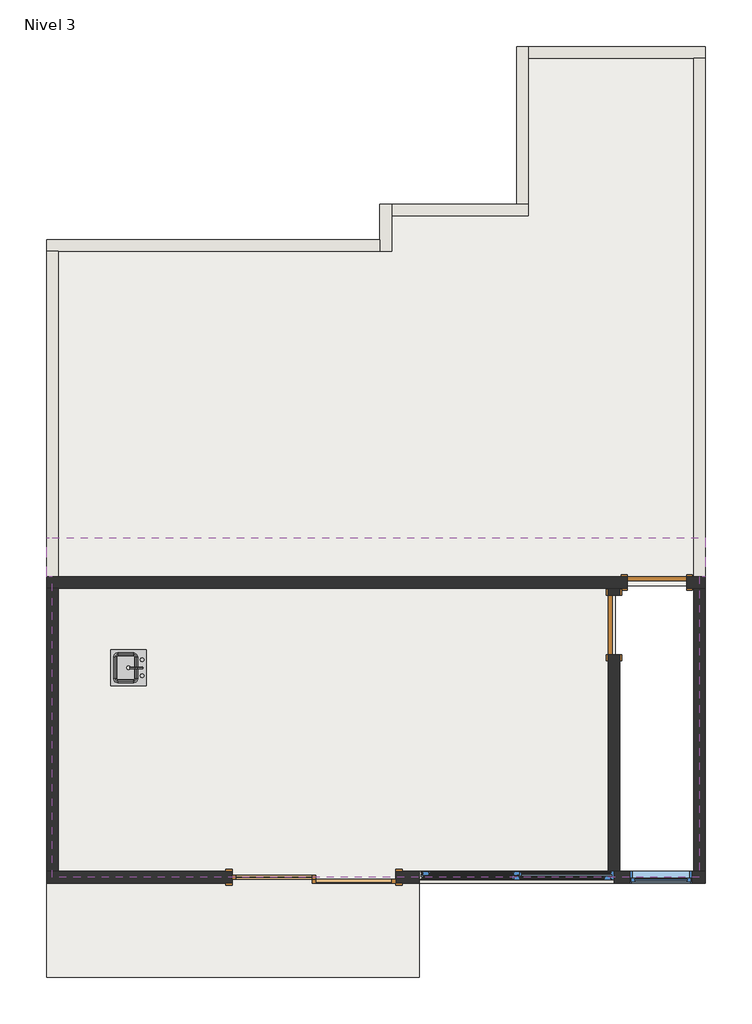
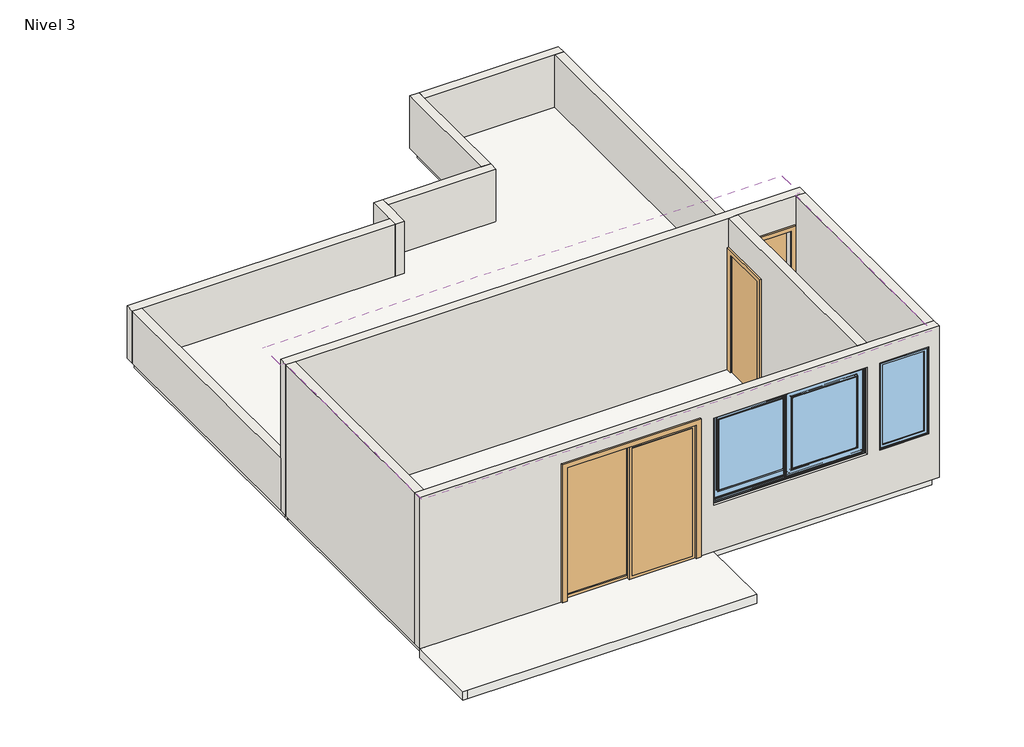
# One storey, incomplete: 12 walls, 3 doors, 2 slabs, 2 windows, 1 covering, 1 flow terminal.
"""IFC4 building model written with IfcOpenShell, lengths in millimetres."""

from ifc_helpers import new_model, si_unit, frame, origin, place, context, project, spatial, polyline, outline, extrude, faceted_brep, transform, mapped, element, save
from components import m_puerta_corredera_dos_hojas_2_1_ancho_d19f291b, m_simple_a_ras_0762_x_2032mm_3f592dcc, flow_terminal_871c2e40, window_2_5_x_1_5_7387efda, window_2_5_x_1_5_7a9b2e37, window_2_5_x_1_5_f0680f54, m_fijo_8_x_1_5_414f3f9b

model = new_model("IFC4")

# Units and contexts
model_context = context("Model", 3, world=origin())
ifc_project = project(units=[si_unit("LENGTHUNIT", "METRE", prefix="MILLI")], contexts=[model_context])

# Site, building, storey
site = spatial("IfcSite", under=ifc_project)
building = spatial("IfcBuilding", under=site)
storey = spatial("IfcBuildingStorey", under=building, Name="Nivel 3", Elevation=5400.0)

# Covering
placement = place(None, origin())
element("IfcCovering", 1, ObjectType="Simple", at=placement, inside=storey, context=model_context, shape_type="SweptSolid", body=[
    extrude(outline(polyline([(-9819.5352198, -654.7257228), (-9819.5352198, 3200.2742772), (-9894.5352198, 3200.2742772), (-9894.5352198, 3700.2742772), (-9819.5352198, 3700.2742772), (-1444.5352198, 3700.2742772), (-1444.5352198, 3200.2742772), (-1519.5352198, 3200.2742772), (-1519.5352198, -654.7257228), (-9819.5352198, -654.7257228)])), frame((0.0, 0.0, 7900.0), z_axis=(0.0, 0.0, 1.0), x_axis=(1.0, 0.0, 0.0)), (0.0, 0.0, 1.0), 57.0),
])

# Doors
m_puerta_corredera_dos_hojas_2_1_ancho_shape = m_puerta_corredera_dos_hojas_2_1_ancho_d19f291b(model_context)
element("IfcDoor", 2, ObjectType="M_Puerta-Corredera-Dos_hojas : 2.1 ANCHO", at=placement, inside=storey, context=model_context, shape_type="MappedRepresentation", body=[
    mapped(m_puerta_corredera_dos_hojas_2_1_ancho_shape, transform((-6464.5352198, -527.7257228, 5400.0), x_axis=(-1.0, 0.0, 0.0), y_axis=(0.0, -1.0, 0.0), z_axis=(0.0, 0.0, 1.0))),
])
m_simple_a_ras_0762_x_2032mm_shape = m_simple_a_ras_0762_x_2032mm_3f592dcc(model_context)
element("IfcDoor", 3, ObjectType="M_Simple-A ras : 0762 x 2032mm", at=placement, inside=storey, context=model_context, shape_type="MappedRepresentation", body=[
    mapped(m_simple_a_ras_0762_x_2032mm_shape, transform((-2067.0352198, 3125.2742772, 5400.0), x_axis=(1.0, 0.0, 0.0), y_axis=(0.0, 1.0, 0.0), z_axis=(0.0, 0.0, 1.0))),
])
element("IfcDoor", 4, ObjectType="M_Simple-A ras : 0762 x 2032mm", at=placement, inside=storey, context=model_context, shape_type="MappedRepresentation", body=[
    mapped(m_simple_a_ras_0762_x_2032mm_shape, transform((-2614.5352198, 2582.2742772, 5400.0), x_axis=(0.0, 1.0, 0.0), y_axis=(-1.0, 0.0, 0.0), z_axis=(0.0, 0.0, 1.0))),
])

# Flow terminal
flow_terminal_shape = flow_terminal_871c2e40(model_context)
element("IfcFlowTerminal", 5, ObjectType="Sink Kitchen-Island : 18\" x 18\"", at=placement, inside=storey, context=model_context, shape_type="MappedRepresentation", body=[
    mapped(flow_terminal_shape, transform((-8843.5050621, 2047.3509897, 5300.0), x_axis=(0.0, -1.0, 0.0), y_axis=(1.0, 0.0, 0.0), z_axis=(0.0, 0.0, 1.0))),
])

# Slabs
element("IfcSlab", 6, ObjectType="Genérico 150 mm", at=placement, inside=storey, context=model_context, shape_type="SweptSolid", body=[
    extrude(outline(polyline([(-9819.5352198, -1939.7257228), (-9894.5352198, -1939.7257228), (-9894.5352198, -729.7257228), (-9819.5352198, -729.7257228), (-9819.5352198, 3200.2742772), (-1519.5352198, 3200.2742772), (-1519.5352198, -654.7257228), (-5114.5352198, -654.7257228), (-5114.5352198, -1939.7257228), (-9819.5352198, -1939.7257228)]), holes=[polyline([(-1594.5352198, 3075.2742772), (-2594.5352198, 3075.2742772), (-2594.5352198, -579.7257228), (-1594.5352198, -579.7257228), (-1594.5352198, 3075.2742772)])]), frame((0.0, 0.0, 5250.0), z_axis=(0.0, 0.0, 1.0), x_axis=(1.0, 0.0, 0.0)), (0.0, 0.0, 1.0), 150.0),
])
element("IfcSlab", 7, ObjectType="Genérico 150 mm", at=placement, inside=storey, context=model_context, shape_type="SweptSolid", body=[
    extrude(outline(polyline([(-9819.5352198, 7448.2742772), (-5544.5352198, 7448.2742772), (-5544.5352198, 7905.2742772), (-3789.5352198, 7905.2742772), (-3789.5352198, 9925.2742772), (-1519.5352198, 9925.2742772), (-1519.5352198, 3125.2742772), (-9819.5352198, 3125.2742772), (-9819.5352198, 3200.2742772), (-9819.5352198, 7448.2742772)])), frame((0.0, 0.0, 5250.0), z_axis=(0.0, 0.0, 1.0), x_axis=(1.0, 0.0, 0.0)), (0.0, 0.0, 1.0), 150.0),
])

# Walls
element("IfcWall", 8, ObjectType="Genérico - 150 mm 2", at=placement, inside=storey, context=model_context, shape_type="Brep", body=[
    faceted_brep([(-9894.5352198, -579.7257228, 8000.0), (-9744.5352198, -579.7257228, 8000.0), (-2689.5352198, -579.7257228, 8000.0), (-2539.5352198, -579.7257228, 8000.0), (-1594.5352198, -579.7257228, 8000.0), (-1444.5352198, -579.7257228, 8000.0), (-1444.5352198, -579.7257228, 5400.0), (-1594.5352198, -579.7257228, 5400.0), (-2539.5352198, -579.7257228, 5400.0), (-2689.5352198, -579.7257228, 5400.0), (-5414.5352198, -579.7257228, 5400.0), (-5414.5352198, -579.7257228, 7700.0), (-7514.5352198, -579.7257228, 7700.0), (-7514.5352198, -579.7257228, 5400.0), (-9744.5352198, -579.7257228, 5400.0), (-9894.5352198, -579.7257228, 5400.0), (-1614.5352198, -579.7257228, 6200.0), (-1614.5352198, -579.7257228, 7700.0), (-2414.5352198, -579.7257228, 7700.0), (-2414.5352198, -579.7257228, 6200.0), (-5114.5352198, -579.7257228, 6200.0), (-2614.5352198, -579.7257228, 6200.0), (-2614.5352198, -579.7257228, 7700.0), (-5114.5352198, -579.7257228, 7700.0), (-1444.5352198, -729.7257228, 8000.0), (-9894.5352198, -729.7257228, 8000.0), (-9894.5352198, -729.7257228, 5400.0), (-7514.5352198, -729.7257228, 5400.0), (-7514.5352198, -729.7257228, 7700.0), (-5414.5352198, -729.7257228, 7700.0), (-5414.5352198, -729.7257228, 5400.0), (-1444.5352198, -729.7257228, 5400.0), (-1614.5352198, -729.7257228, 6200.0), (-2414.5352198, -729.7257228, 6200.0), (-2414.5352198, -729.7257228, 7700.0), (-1614.5352198, -729.7257228, 7700.0), (-5114.5352198, -729.7257228, 6200.0), (-5114.5352198, -729.7257228, 7700.0), (-2614.5352198, -729.7257228, 7700.0), (-2614.5352198, -729.7257228, 6200.0)], [[[0, 1, 2, 3, 4, 5, 6, 7, 8, 9, 10, 11, 12, 13, 14, 15], [16, 17, 18, 19], [20, 21, 22, 23]], [[24, 25, 26, 27, 28, 29, 30, 31], [32, 33, 34, 35], [36, 37, 38, 39]], [[26, 15, 14, 13, 27]], [[6, 31, 30, 10, 9, 8, 7]], [[5, 4, 3, 2, 1, 0, 25, 24]], [[0, 15, 26, 25]], [[6, 5, 24, 31]], [[29, 11, 10, 30]], [[12, 28, 27, 13]], [[11, 29, 28, 12]], [[17, 16, 32, 35]], [[18, 17, 35, 34]], [[19, 18, 34, 33]], [[16, 19, 33, 32]], [[37, 36, 20, 23]], [[38, 37, 23, 22]], [[39, 38, 22, 21]], [[36, 39, 21, 20]]]),
])
element("IfcWall", 9, ObjectType="Genérico - 150 mm 2", at=placement, inside=storey, context=model_context, shape_type="SweptSolid", body=[
    extrude(outline(polyline([(-9744.5352198, 3050.2742772), (-9744.5352198, -579.7257228), (-9894.5352198, -579.7257228), (-9894.5352198, 3050.2742772), (-9744.5352198, 3050.2742772)])), frame((0.0, 0.0, 5400.0), z_axis=(0.0, 0.0, 1.0), x_axis=(1.0, 0.0, 0.0)), (0.0, 0.0, 1.0), 2600.0),
])
element("IfcWall", 10, ObjectType="Genérico - 150 mm 2", at=placement, inside=storey, context=model_context, shape_type="Brep", body=[
    faceted_brep([(-5469.5352198, 7373.2742772, 5400.0), (-5469.5352198, 7830.2742772, 5400.0), (-5469.5352198, 7980.2742772, 5400.0), (-5469.5352198, 7980.2742772, 6300.0), (-5469.5352198, 7830.2742772, 6300.0), (-5469.5352198, 7373.2742772, 6300.0), (-5619.5352198, 7373.2742772, 5400.0), (-5619.5352198, 7373.2742772, 6300.0), (-5619.5352198, 7523.2742772, 6300.0), (-5619.5352198, 7980.2742772, 6300.0), (-5619.5352198, 7980.2742772, 5400.0), (-5619.5352198, 7523.2742772, 5400.0)], [[[0, 1, 2, 3, 4, 5]], [[6, 7, 8, 9, 10, 11]], [[2, 1, 0, 6, 11, 10]], [[5, 4, 3, 9, 8, 7]], [[3, 2, 10, 9]], [[0, 5, 7, 6]]]),
])
element("IfcWall", 11, ObjectType="Genérico - 150 mm 2", at=placement, inside=storey, context=model_context, shape_type="Brep", body=[
    faceted_brep([(-5469.5352198, 7830.2742772, 5400.0), (-3714.5352198, 7830.2742772, 5400.0), (-3714.5352198, 7830.2742772, 6300.0), (-5469.5352198, 7830.2742772, 6300.0), (-5469.5352198, 7980.2742772, 5400.0), (-5469.5352198, 7980.2742772, 6300.0), (-3864.5352198, 7980.2742772, 6300.0), (-3714.5352198, 7980.2742772, 6300.0), (-3714.5352198, 7980.2742772, 5400.0), (-3864.5352198, 7980.2742772, 5400.0)], [[[0, 1, 2, 3]], [[4, 5, 6, 7, 8, 9]], [[1, 0, 4, 9, 8]], [[3, 2, 7, 6, 5]], [[0, 3, 5, 4]], [[2, 1, 8, 7]]]),
])
element("IfcWall", 12, ObjectType="Genérico - 150 mm 2", at=placement, inside=storey, context=model_context, shape_type="Brep", body=[
    faceted_brep([(-3714.5352198, 7980.2742772, 5400.0), (-3714.5352198, 9850.2742772, 5400.0), (-3714.5352198, 10000.2742772, 5400.0), (-3714.5352198, 10000.2742772, 6300.0), (-3714.5352198, 9850.2742772, 6300.0), (-3714.5352198, 7980.2742772, 6300.0), (-3864.5352198, 7980.2742772, 5400.0), (-3864.5352198, 7980.2742772, 6300.0), (-3864.5352198, 10000.2742772, 6300.0), (-3864.5352198, 10000.2742772, 5400.0)], [[[0, 1, 2, 3, 4, 5]], [[6, 7, 8, 9]], [[2, 1, 0, 6, 9]], [[5, 4, 3, 8, 7]], [[0, 5, 7, 6]], [[3, 2, 9, 8]]]),
])
element("IfcWall", 13, ObjectType="Genérico - 150 mm 2", at=placement, inside=storey, context=model_context, shape_type="Brep", body=[
    faceted_brep([(-3714.5352198, 9850.2742772, 5400.0), (-1594.5352198, 9850.2742772, 5400.0), (-1444.5352198, 9850.2742772, 5400.0), (-1444.5352198, 9850.2742772, 6300.0), (-1594.5352198, 9850.2742772, 6300.0), (-3714.5352198, 9850.2742772, 6300.0), (-3714.5352198, 10000.2742772, 5400.0), (-3714.5352198, 10000.2742772, 6300.0), (-1444.5352198, 10000.2742772, 6300.0), (-1444.5352198, 10000.2742772, 5400.0)], [[[0, 1, 2, 3, 4, 5]], [[6, 7, 8, 9]], [[2, 1, 0, 6, 9]], [[5, 4, 3, 8, 7]], [[0, 5, 7, 6]], [[3, 2, 9, 8]]]),
])
element("IfcWall", 14, ObjectType="Genérico - 150 mm 2", at=placement, inside=storey, context=model_context, shape_type="SweptSolid", body=[
    extrude(outline(polyline([(-1594.5352198, -579.7257228), (-1594.5352198, 3050.2742772), (-1444.5352198, 3050.2742772), (-1444.5352198, -579.7257228), (-1594.5352198, -579.7257228)])), frame((0.0, 0.0, 5400.0), z_axis=(0.0, 0.0, 1.0), x_axis=(1.0, 0.0, 0.0)), (0.0, 0.0, 1.0), 2600.0),
])
element("IfcWall", 15, ObjectType="Genérico - 150 mm 2", at=placement, inside=storey, context=model_context, shape_type="Brep", body=[
    faceted_brep([(-1686.0352198, 3050.2742772, 7432.0), (-1686.0352198, 3050.2742772, 5400.0), (-1594.5352198, 3050.2742772, 5400.0), (-1444.5352198, 3050.2742772, 5400.0), (-1444.5352198, 3050.2742772, 8000.0), (-1594.5352198, 3050.2742772, 8000.0), (-2539.5352198, 3050.2742772, 8000.0), (-2689.5352198, 3050.2742772, 8000.0), (-9744.5352198, 3050.2742772, 8000.0), (-9894.5352198, 3050.2742772, 8000.0), (-9894.5352198, 3050.2742772, 5400.0), (-9744.5352198, 3050.2742772, 5400.0), (-2689.5352198, 3050.2742772, 5400.0), (-2539.5352198, 3050.2742772, 5400.0), (-2448.0352198, 3050.2742772, 5400.0), (-2448.0352198, 3050.2742772, 7432.0), (-1444.5352198, 3200.2742772, 5400.0), (-1594.5352198, 3200.2742772, 5400.0), (-1686.0352198, 3200.2742772, 5400.0), (-1686.0352198, 3200.2742772, 7432.0), (-2448.0352198, 3200.2742772, 7432.0), (-2448.0352198, 3200.2742772, 5400.0), (-9744.5352198, 3200.2742772, 5400.0), (-9894.5352198, 3200.2742772, 5400.0), (-9894.5352198, 3200.2742772, 6300.0), (-9894.5352198, 3200.2742772, 8000.0), (-1444.5352198, 3200.2742772, 8000.0), (-1444.5352198, 3200.2742772, 6300.0)], [[[0, 1, 2, 3, 4, 5, 6, 7, 8, 9, 10, 11, 12, 13, 14, 15]], [[16, 17, 18, 19, 20, 21, 22, 23, 24, 25, 26, 27]], [[14, 13, 12, 11, 10, 23, 22, 21]], [[3, 2, 1, 18, 17, 16]], [[9, 8, 7, 6, 5, 4, 26, 25]], [[19, 18, 1, 0]], [[20, 19, 0, 15]], [[21, 20, 15, 14]], [[9, 25, 24, 23, 10]], [[3, 16, 27, 26, 4]]]),
])
element("IfcWall", 16, ObjectType="Genérico - 150 mm 2", at=placement, inside=storey, context=model_context, shape_type="SweptSolid", body=[
    extrude(outline(polyline([(3050.2742772, 5400.0), (2963.2742772, 5400.0), (2963.2742772, 7432.0), (2201.2742772, 7432.0), (2201.2742772, 5400.0), (-579.7257228, 5400.0), (-579.7257228, 8000.0), (3050.2742772, 8000.0), (3050.2742772, 5400.0)])), frame((-2689.5352198, 0.0, 0.0), z_axis=(1.0, 0.0, 0.0), x_axis=(0.0, 1.0, 0.0)), (0.0, 0.0, 1.0), 150.0),
])
element("IfcWall", 17, ObjectType="Genérico - 150 mm 2", at=placement, inside=storey, context=model_context, shape_type="Brep", body=[
    faceted_brep([(-5619.5352198, 7523.2742772, 5400.0), (-9894.5352198, 7523.2742772, 5400.0), (-9894.5352198, 7523.2742772, 6300.0), (-5619.5352198, 7523.2742772, 6300.0), (-5619.5352198, 7373.2742772, 5400.0), (-5619.5352198, 7373.2742772, 6300.0), (-9744.5352198, 7373.2742772, 6300.0), (-9894.5352198, 7373.2742772, 6300.0), (-9894.5352198, 7373.2742772, 5400.0), (-9744.5352198, 7373.2742772, 5400.0)], [[[0, 1, 2, 3]], [[4, 5, 6, 7, 8, 9]], [[1, 0, 4, 9, 8]], [[3, 2, 7, 6, 5]], [[0, 3, 5, 4]], [[2, 1, 8, 7]]]),
])
element("IfcWall", 18, ObjectType="Genérico - 150 mm 2", at=placement, inside=storey, context=model_context, shape_type="SweptSolid", body=[
    extrude(outline(polyline([(-9894.5352198, 3200.2742772), (-9894.5352198, 7373.2742772), (-9744.5352198, 7373.2742772), (-9744.5352198, 3200.2742772), (-9894.5352198, 3200.2742772)])), frame((0.0, 0.0, 5400.0), z_axis=(0.0, 0.0, 1.0), x_axis=(1.0, 0.0, 0.0)), (0.0, 0.0, 1.0), 900.0),
])
element("IfcWall", 19, ObjectType="Genérico - 150 mm 2", at=placement, inside=storey, context=model_context, shape_type="SweptSolid", body=[
    extrude(outline(polyline([(-1444.5352198, 9850.2742772), (-1444.5352198, 3200.2742772), (-1594.5352198, 3200.2742772), (-1594.5352198, 9850.2742772), (-1444.5352198, 9850.2742772)])), frame((0.0, 0.0, 5400.0), z_axis=(0.0, 0.0, 1.0), x_axis=(1.0, 0.0, 0.0)), (0.0, 0.0, 1.0), 900.0),
])

# Windows
window_2_5_x_1_5_shape = window_2_5_x_1_5_7387efda(model_context)
window_2_5_x_1_5_2_shape = window_2_5_x_1_5_7a9b2e37(model_context)
window_2_5_x_1_5_3_shape = window_2_5_x_1_5_f0680f54(model_context)
element("IfcWindow", 20, ObjectType="Windows_Opening-Slide_Strugal_S110P2_One-Leaf-Fixed-Leaf_INT (2) : 2.5 x 1.5", at=placement, inside=storey, context=model_context, shape_type="MappedRepresentation", body=[
    mapped(window_2_5_x_1_5_shape, transform((-3864.5352198, -654.7257228, 6200.0), x_axis=(-1.0, 0.0, 0.0), y_axis=(0.0, -1.0, 0.0), z_axis=(0.0, 0.0, 1.0))),
    mapped(window_2_5_x_1_5_2_shape, transform((-3864.5352198, -654.7257228, 6200.0), x_axis=(-1.0, 0.0, 0.0), y_axis=(0.0, -1.0, 0.0), z_axis=(0.0, 0.0, 1.0))),
    mapped(window_2_5_x_1_5_3_shape, transform((-3864.5352198, -654.7257228, 6200.0), x_axis=(-1.0, 0.0, 0.0), y_axis=(0.0, -1.0, 0.0), z_axis=(0.0, 0.0, 1.0))),
])
m_fijo_8_x_1_5_shape = m_fijo_8_x_1_5_414f3f9b(model_context)
element("IfcWindow", 21, ObjectType="M_Fijo : .8 x 1.5", at=placement, inside=storey, context=model_context, shape_type="MappedRepresentation", body=[
    mapped(m_fijo_8_x_1_5_shape, transform((-2014.5352198, -641.7257228, 5285.0), x_axis=(-1.0, 0.0, 0.0), y_axis=(0.0, -1.0, 0.0), z_axis=(0.0, 0.0, 1.0))),
])

save(model, "model.ifc")
